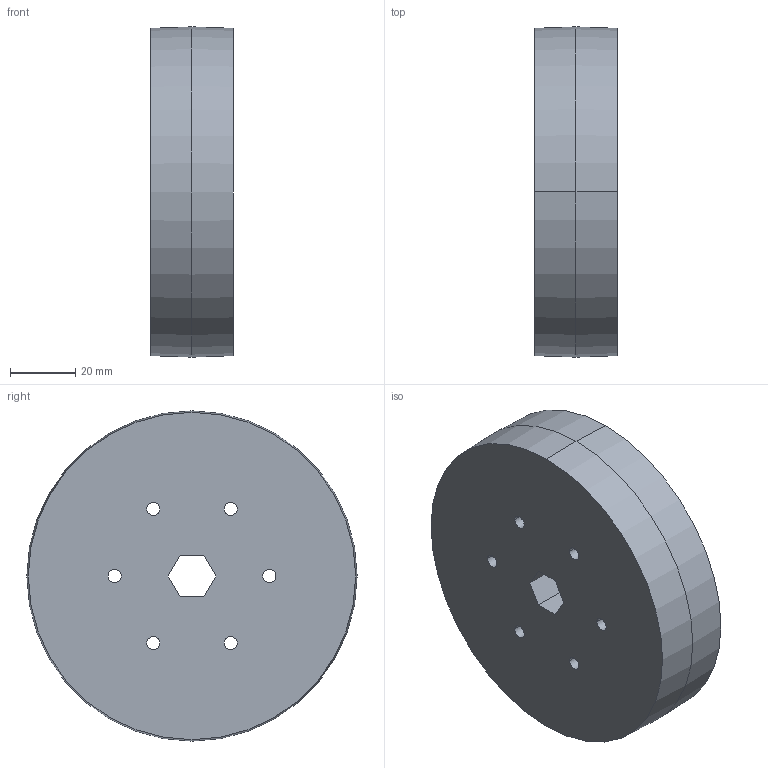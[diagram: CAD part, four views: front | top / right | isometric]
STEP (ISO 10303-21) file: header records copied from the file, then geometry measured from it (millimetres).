
FILE_DESCRIPTION (( 'STEP AP214' ), '1' );
FILE_NAME ('4_ OD 1_2_ Hex ID Stealth Wheel 40A (am-2647)_1.step', '2025-12-23T15:51:50', ( '' ), ( '' ), 'SwSTEP 2.0', 'SolidWorks 2026', '' );
FILE_SCHEMA (( 'AUTOMOTIVE_DESIGN' ));
Length unit declared in the file: inch
Products named in the file (1): 4_ OD 1_2_ Hex ID Stealth Wheel 40A (am-2647)_1
Bounding box: 25.4 x 101.6 x 101.6 mm (x, y, z)
Volume: 91337.5 mm3; surface area: 36263.4 mm2
Topology: 1 solids, 1 shells, 605 faces, 1435 edges, 815 vertices
Faces by surface type: torus 226, cone 126, cylinder 118, bspline 72, plane 63
Entity records: 22119 total; most frequent: CARTESIAN_POINT 8640, DIRECTION 2948, ORIENTED_EDGE 2822, EDGE_CURVE 1411, AXIS2_PLACEMENT_3D 1307, VERTEX_POINT 815, CIRCLE 773, EDGE_LOOP 626
